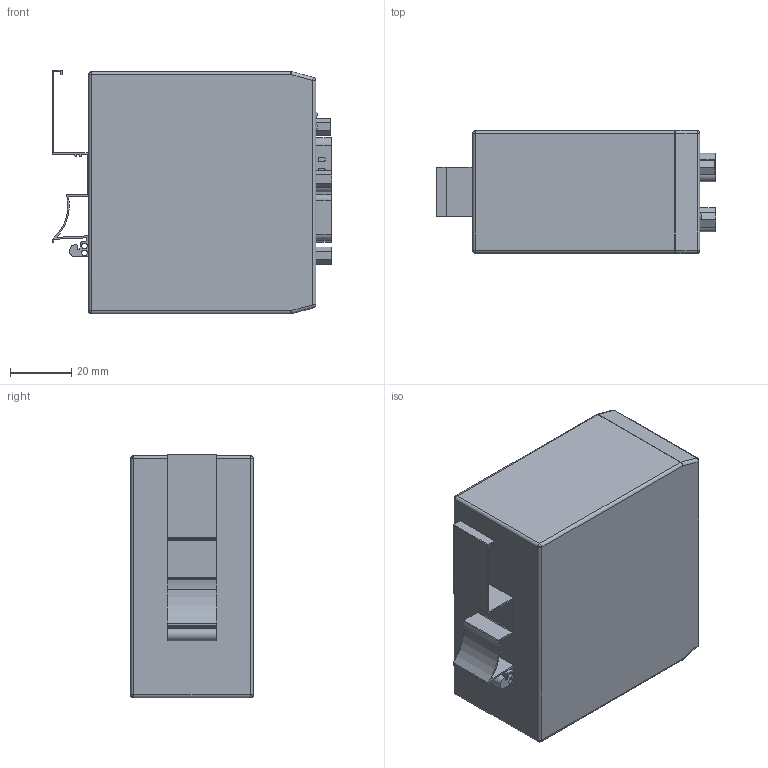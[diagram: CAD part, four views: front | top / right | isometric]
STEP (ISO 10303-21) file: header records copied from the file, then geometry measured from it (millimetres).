
FILE_DESCRIPTION (( 'STEP AP214' ), '1' );
FILE_NAME ('Z1688_Signalwandler~0.STEP', '2017-11-16T09:03:59', ( '' ), ( '' ), 'SwSTEP 2.0', 'SolidWorks 2017', '' );
FILE_SCHEMA (( 'AUTOMOTIVE_DESIGN' ));
Length unit declared in the file: millimetre
Products named in the file (1): Z1688_Signalwandler~0
Bounding box: 91.2 x 40 x 79.43 mm (x, y, z)
Volume: 229801.7 mm3; surface area: 34802.3 mm2
Topology: 24 solids, 24 shells, 943 faces, 2299 edges, 1464 vertices
Faces by surface type: cylinder 348, plane 335, cone 206, bspline 54
Entity records: 40120 total; most frequent: CARTESIAN_POINT 7318, DIRECTION 4828, ORIENTED_EDGE 4502, EDGE_CURVE 2251, AXIS2_PLACEMENT_3D 1966, VERTEX_POINT 1464, CIRCLE 1076, EDGE_LOOP 1071
